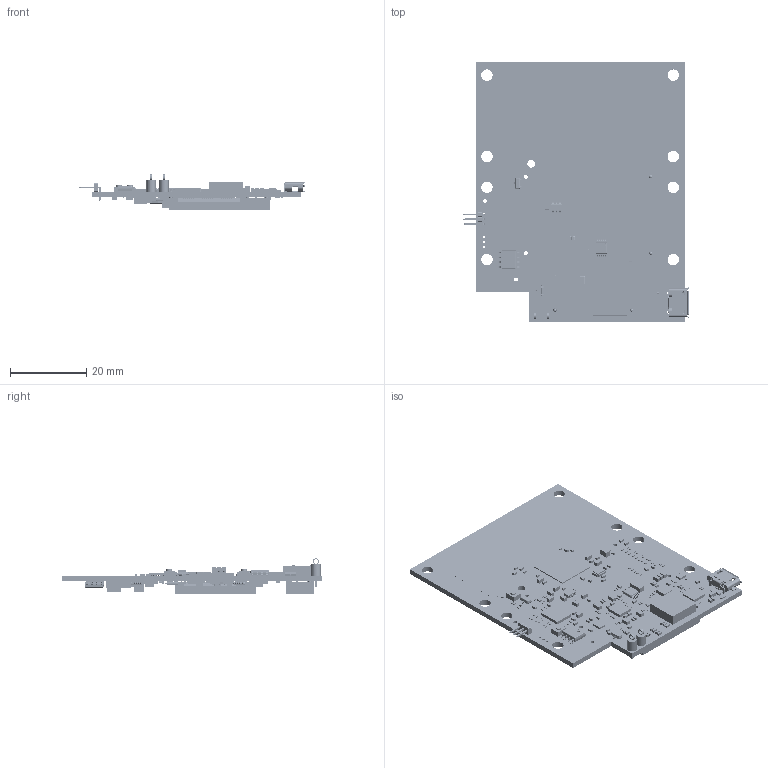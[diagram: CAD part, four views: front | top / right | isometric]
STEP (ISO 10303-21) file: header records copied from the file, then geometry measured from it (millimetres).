
FILE_DESCRIPTION(('Open CASCADE Model'),'2;1');
FILE_NAME('Open CASCADE Shape Model','2020-08-31T14:43:57',('Author'),( 'Open CASCADE'),'Open CASCADE STEP processor 6.8','Open CASCADE 6.8' ,'Unknown');
FILE_SCHEMA(('AUTOMOTIVE_DESIGN { 1 0 10303 214 1 1 1 1 }'));
Length unit declared in the file: millimetre
Products named in the file (631): PCB; Board; C104; Cap_CL05A226MQ5N6J8_0402_(1005_Metric); body; terminals; value; C102; C101; TP12; Keystone_5001; Keystone5001_black; Keystone500x_wire; U16; DRB0008B; BODY-SON; FRAME-DRB0008B; FRAME-DRB0008B_3; FRAME-DRB0008B_4; FRAME-DRB0008B_5; FRAME-DRB0008B_6; FRAME-DRB0008B_7; FRAME-DRB0008B_8; FRAME-DRB0008B_9; FRAME-DRB0008B_10; FRAME-DRB0008B_11; C96; 6281957760; Extruded; 6281957568; C95; C97; C88; C87; 6281957376; 6281957184; C86; C93; 6281956992; 6281956800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
Assembly tree (1651 placements, depth 6):
  PCB
    Board
    C104
      Cap_CL05A226MQ5N6J8_0402_(1005_Metric)
        body
        terminals
        value
    C102
      Cap_CL05A226MQ5N6J8_0402_(1005_Metric)
        body
        terminals
        value
    C101
      Cap_CL05A226MQ5N6J8_0402_(1005_Metric)
        body
        terminals
        value
    TP12
      Keystone_5001
        Keystone5001_black
        Keystone500x_wire
    U16
      DRB0008B
        BODY-SON
        FRAME-DRB0008B
          FRAME-DRB0008B_3
          FRAME-DRB0008B_4
          FRAME-DRB0008B_5
          FRAME-DRB0008B_6
          FRAME-DRB0008B_7
          FRAME-DRB0008B_8
          FRAME-DRB0008B_9
          FRAME-DRB0008B_10
          FRAME-DRB0008B_11
    C96
      6281957760  x2
        Extruded
      6281957568
        Extruded
    C95
      6281957760  x2
        Extruded
      6281957568
        Extruded
    C97
      6281957760  x2
        Extruded
      6281957568
        Extruded
    C88
      6281957760  x2
        Extruded
      6281957568
        Extruded
    C87
      6281957376  x2
        Extruded
      6281957184
        Extruded
    C86
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Bounding box: 59.42 x 68.46 x 9.34 mm (x, y, z)
Volume: 6658.2 mm3; surface area: 14836.5 mm2
Topology: 1411 solids, 1411 shells, 18632 faces, 47222 edges, 31003 vertices
Faces by surface type: plane 13859, cylinder 2205, bspline 1990, sphere 558, torus 12, revolution 8
Full cylindrical faces by diameter (mm): 0.25 x1, 0.4 x1, 0.6 x6, 0.85 x2, 1.016 x4, 1.02 x6, 2.032 x1, 2.5 x2, 3 x8
Entity records: 244160 total; most frequent: CARTESIAN_POINT 48311, ORIENTED_EDGE 36094, DIRECTION 33797, EDGE_CURVE 18047, LINE 14351, VECTOR 14351, VERTEX_POINT 11864, AXIS2_PLACEMENT_3D 9721
